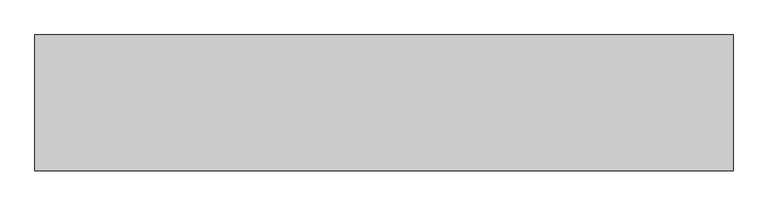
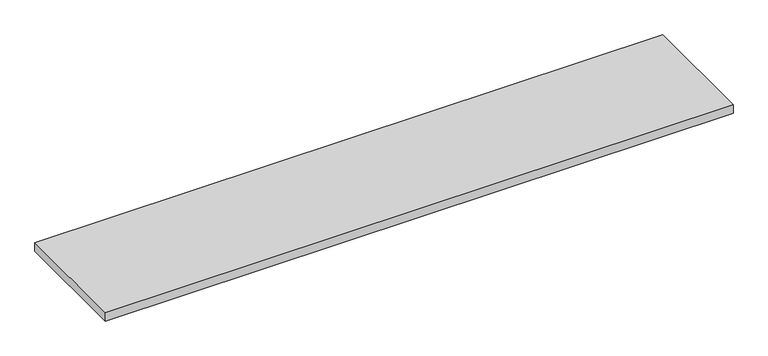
"""IFC4 building model written with IfcOpenShell, lengths in millimetres: furniture geometry."""

from ifc_helpers import new_model, si_unit, frame, origin, place, context, project, spatial, polyline, outline, extrude, source, transform, mapped, element, save


def furniture_3fd57688(model_context):
    return source(origin(), model_context, "Body", "SweptSolid", [
        extrude(outline(polyline([(914.4, -355.6), (-914.4, -355.6), (-914.4, 0.0), (914.4, 0.0), (914.4, -355.6)])), frame((0.0, 0.0, 1203.325), z_axis=(0.0, 0.0, 1.0), x_axis=(1.0, 0.0, 0.0)), (0.0, 0.0, 1.0), 25.4),
    ])


if __name__ == "__main__":
    model = new_model("IFC4")
    model_context = context("Model", 3, world=origin())
    ifc_project = project(units=[si_unit("LENGTHUNIT", "METRE", prefix="MILLI")], contexts=[model_context])
    site = spatial("IfcSite", under=ifc_project)
    building = spatial("IfcBuilding", under=site)
    placement = place(None, origin())
    furniture_shape = furniture_3fd57688(model_context)
    element("IfcFurniture", 1, ObjectType="HermanMiller_ActionOffice_A2830_Sq-EdgeTransactionSurfaceRectangularEnd : 14\"D x 72\"W", at=placement, inside=building, context=model_context, shape_type="MappedRepresentation", body=[
        mapped(furniture_shape, transform((0.0, 0.0, 0.0), x_axis=(1.0, 0.0, 0.0), y_axis=(0.0, 1.0, 0.0), z_axis=(0.0, 0.0, 1.0))),
    ])
    save(model, "model.ifc")
